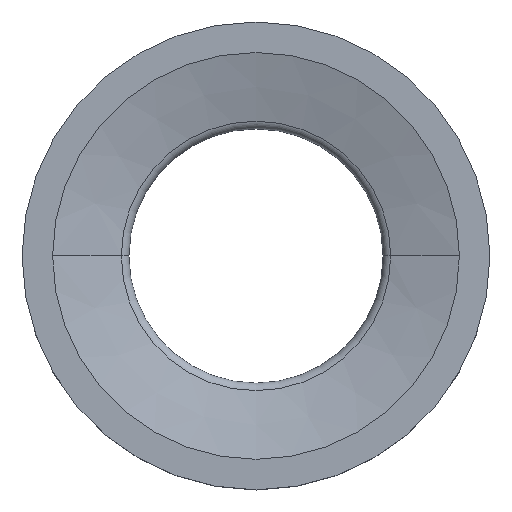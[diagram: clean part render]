
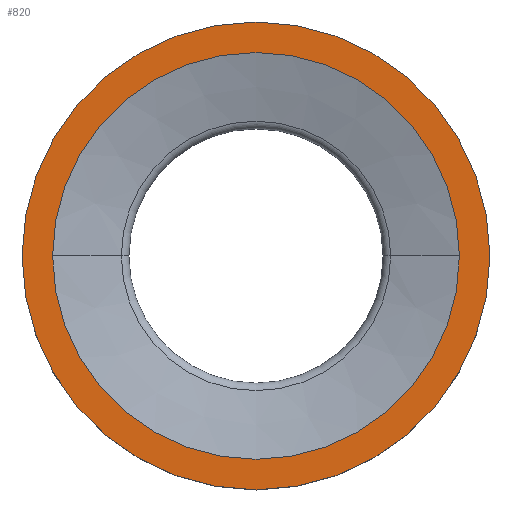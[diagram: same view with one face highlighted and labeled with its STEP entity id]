
A CAD part, top view. The second image highlights one B-rep face of the part: STEP entity #820.
In plain terms, the highlighted planar face has unit normal (0, 0, 1).
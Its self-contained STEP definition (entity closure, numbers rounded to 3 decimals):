
#125=CARTESIAN_POINT('',(0.,0.,20.));
#126=DIRECTION('',(0.,0.,1.));
#127=DIRECTION('',(1.,0.,0.));
#128=AXIS2_PLACEMENT_3D('',#125,#126,#127);
#130=CARTESIAN_POINT('',(0.,0.,20.));
#131=DIRECTION('',(0.,0.,1.));
#132=DIRECTION('',(-1.,0.,0.));
#133=AXIS2_PLACEMENT_3D('',#130,#131,#132);
#135=CARTESIAN_POINT('',(0.,0.,20.));
#136=DIRECTION('',(0.,0.,-1.));
#137=DIRECTION('',(1.,0.,0.));
#138=AXIS2_PLACEMENT_3D('',#135,#136,#137);
#140=CARTESIAN_POINT('',(0.,0.,20.));
#141=DIRECTION('',(0.,0.,-1.));
#142=DIRECTION('',(-1.,0.,0.));
#143=AXIS2_PLACEMENT_3D('',#140,#141,#142);
#515=CARTESIAN_POINT('',(46.,0.,20.));
#516=CARTESIAN_POINT('',(-46.,0.,20.));
#517=VERTEX_POINT('',#515);
#518=VERTEX_POINT('',#516);
#519=CARTESIAN_POINT('',(40.,0.,20.));
#520=CARTESIAN_POINT('',(-40.,0.,
20.));
#521=VERTEX_POINT('',#519);
#522=VERTEX_POINT('',#520);
#805=CARTESIAN_POINT('',(0.,0.,20.));
#806=DIRECTION('',(0.,0.,1.));
#807=DIRECTION('',(1.,0.,0.));
#808=AXIS2_PLACEMENT_3D('',#805,#806,#807);
#809=PLANE('',#808);
#811=ORIENTED_EDGE('',*,*,#810,.F.);
#813=ORIENTED_EDGE('',*,*,#812,.F.);
#814=EDGE_LOOP('',(#811,#813));
#815=FACE_OUTER_BOUND('',#814,.F.);
#816=ORIENTED_EDGE('',*,*,#785,.F.);
#817=ORIENTED_EDGE('',*,*,#799,.F.);
#818=EDGE_LOOP('',(#816,#817));
#819=FACE_BOUND('',#818,.F.);
#129=CIRCLE('',#128,46.);
#134=CIRCLE('',#133,46.);
#139=CIRCLE('',#138,40.);
#144=CIRCLE('',#143,40.);
#785=EDGE_CURVE('',#521,#522,#139,.T.);
#799=EDGE_CURVE('',#522,#521,#144,.T.);
#810=EDGE_CURVE('',#517,#518,#129,.T.);
#812=EDGE_CURVE('',#518,#517,#134,.T.);
#820=ADVANCED_FACE('',(#815,#819),#809,.T.);
